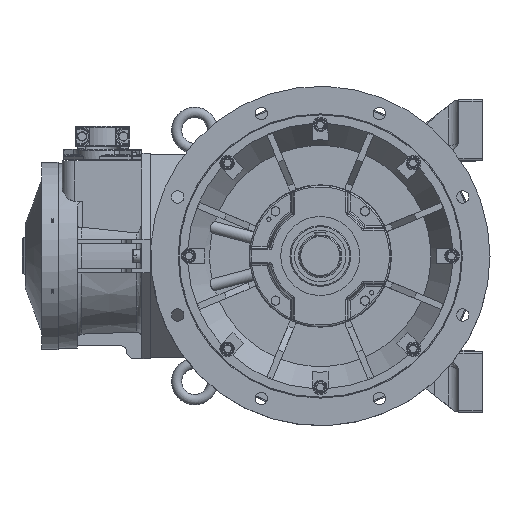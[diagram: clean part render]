
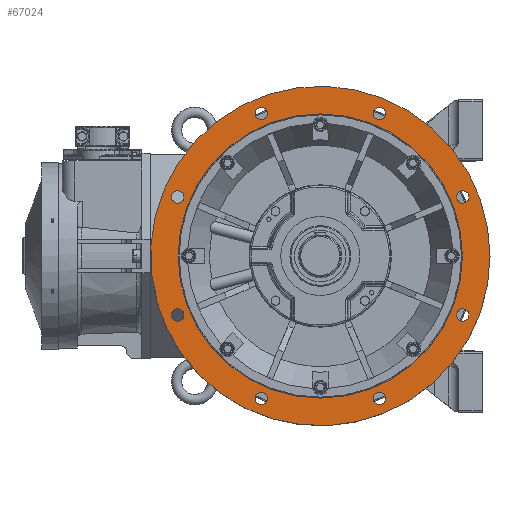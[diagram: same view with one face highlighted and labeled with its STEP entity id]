
A CAD part, left-side view. The second image highlights one B-rep face of the part: STEP entity #67024.
In plain terms, the highlighted planar face has unit normal (-1, 0, 0).
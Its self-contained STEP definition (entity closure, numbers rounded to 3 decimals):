
#18925=ORIENTED_EDGE('',*,*,#28013,.F.);
#18926=ORIENTED_EDGE('',*,*,#28015,.F.);
#18927=ORIENTED_EDGE('',*,*,#28017,.F.);
#18928=ORIENTED_EDGE('',*,*,#28019,.F.);
#18929=ORIENTED_EDGE('',*,*,#28021,.F.);
#18930=ORIENTED_EDGE('',*,*,#28023,.F.);
#18931=ORIENTED_EDGE('',*,*,#28025,.F.);
#18932=ORIENTED_EDGE('',*,*,#28027,.F.);
#18933=ORIENTED_EDGE('',*,*,#28047,.F.);
#18934=ORIENTED_EDGE('',*,*,#28048,.T.);
#28013=EDGE_CURVE('',#33291,#33291,#35902,.T.);
#28015=EDGE_CURVE('',#33293,#33293,#35904,.T.);
#28017=EDGE_CURVE('',#33295,#33295,#35906,.T.);
#28019=EDGE_CURVE('',#33297,#33297,#35908,.T.);
#28021=EDGE_CURVE('',#33299,#33299,#35910,.T.);
#28023=EDGE_CURVE('',#33301,#33301,#35912,.T.);
#28025=EDGE_CURVE('',#33303,#33303,#35914,.T.);
#28027=EDGE_CURVE('',#33305,#33305,#35916,.T.);
#28047=EDGE_CURVE('',#33325,#33325,#35936,.T.);
#28048=EDGE_CURVE('',#33326,#33326,#35937,.F.);
#33291=VERTEX_POINT('',#101194);
#33293=VERTEX_POINT('',#101199);
#33295=VERTEX_POINT('',#101204);
#33297=VERTEX_POINT('',#101209);
#33299=VERTEX_POINT('',#101214);
#33301=VERTEX_POINT('',#101219);
#33303=VERTEX_POINT('',#101224);
#33305=VERTEX_POINT('',#101229);
#33325=VERTEX_POINT('',#101287);
#33326=VERTEX_POINT('',#101289);
#35902=CIRCLE('',#71323,12.);
#35904=CIRCLE('',#71326,12.);
#35906=CIRCLE('',#71329,12.);
#35908=CIRCLE('',#71332,12.);
#35910=CIRCLE('',#71335,12.);
#35912=CIRCLE('',#71338,12.);
#35914=CIRCLE('',#71341,12.);
#35916=CIRCLE('',#71344,12.);
#35936=CIRCLE('',#71382,276.402);
#35937=CIRCLE('',#71383,330.);
#38910=EDGE_LOOP('',(#18925));
#38911=EDGE_LOOP('',(#18926));
#38912=EDGE_LOOP('',(#18927));
#38913=EDGE_LOOP('',(#18928));
#38914=EDGE_LOOP('',(#18929));
#38915=EDGE_LOOP('',(#18930));
#38916=EDGE_LOOP('',(#18931));
#38917=EDGE_LOOP('',(#18932));
#38918=EDGE_LOOP('',(#18933));
#38919=EDGE_LOOP('',(#18934));
#42343=FACE_BOUND('',#38910,.T.);
#42344=FACE_BOUND('',#38911,.T.);
#42345=FACE_BOUND('',#38912,.T.);
#42346=FACE_BOUND('',#38913,.T.);
#42347=FACE_BOUND('',#38914,.T.);
#42348=FACE_BOUND('',#38915,.T.);
#42349=FACE_BOUND('',#38916,.T.);
#42350=FACE_BOUND('',#38917,.T.);
#42351=FACE_BOUND('',#38918,.T.);
#42352=FACE_BOUND('',#38919,.T.);
#44721=PLANE('',#71381);
#67024=ADVANCED_FACE('',(#42343,#42344,#42345,#42346,#42347,#42348,#42349,
#42350,#42351,#42352),#44721,.F.);
#71323=AXIS2_PLACEMENT_3D('',#101193,#82400,#82401);
#71326=AXIS2_PLACEMENT_3D('',#101198,#82406,#82407);
#71329=AXIS2_PLACEMENT_3D('',#101203,#82412,#82413);
#71332=AXIS2_PLACEMENT_3D('',#101208,#82418,#82419);
#71335=AXIS2_PLACEMENT_3D('',#101213,#82424,#82425);
#71338=AXIS2_PLACEMENT_3D('',#101218,#82430,#82431);
#71341=AXIS2_PLACEMENT_3D('',#101223,#82436,#82437);
#71344=AXIS2_PLACEMENT_3D('',#101228,#82442,#82443);
#71381=AXIS2_PLACEMENT_3D('',#101285,#82516,#82517);
#71382=AXIS2_PLACEMENT_3D('',#101286,#82518,#82519);
#71383=AXIS2_PLACEMENT_3D('',#101288,#82520,#82521);
#82400=DIRECTION('',(-1.,0.,0.));
#82401=DIRECTION('',(0.,0.,1.));
#82406=DIRECTION('',(-1.,0.,0.));
#82407=DIRECTION('',(0.,0.,1.));
#82412=DIRECTION('',(-1.,0.,0.));
#82413=DIRECTION('',(0.,0.,1.));
#82418=DIRECTION('',(-1.,0.,0.));
#82419=DIRECTION('',(0.,0.,1.));
#82424=DIRECTION('',(-1.,0.,0.));
#82425=DIRECTION('',(0.,0.,1.));
#82430=DIRECTION('',(-1.,0.,0.));
#82431=DIRECTION('',(0.,0.,1.));
#82436=DIRECTION('',(-1.,0.,0.));
#82437=DIRECTION('',(0.,0.,1.));
#82442=DIRECTION('',(-1.,0.,0.));
#82443=DIRECTION('',(0.,0.,1.));
#82516=DIRECTION('',(1.,0.,0.));
#82517=DIRECTION('',(0.,-1.,0.));
#82518=DIRECTION('',(-1.,0.,0.));
#82519=DIRECTION('',(0.,1.,0.));
#82520=DIRECTION('',(1.,0.,0.));
#82521=DIRECTION('',(0.,-1.,0.));
#101193=CARTESIAN_POINT('',(-89.5,114.805,277.164));
#101194=CARTESIAN_POINT('',(-89.5,114.805,289.164));
#101198=CARTESIAN_POINT('',(-89.5,-114.805,277.164));
#101199=CARTESIAN_POINT('',(-89.5,-114.805,289.164));
#101203=CARTESIAN_POINT('',(-89.5,-277.164,114.805));
#101204=CARTESIAN_POINT('',(-89.5,-277.164,126.805));
#101208=CARTESIAN_POINT('',(-89.5,-277.164,-114.805));
#101209=CARTESIAN_POINT('',(-89.5,-277.164,-102.805));
#101213=CARTESIAN_POINT('',(-89.5,-114.805,-277.164));
#101214=CARTESIAN_POINT('',(-89.5,-114.805,-265.164));
#101218=CARTESIAN_POINT('',(-89.5,114.805,-277.164));
#101219=CARTESIAN_POINT('',(-89.5,114.805,-265.164));
#101223=CARTESIAN_POINT('',(-89.5,277.164,-114.805));
#101224=CARTESIAN_POINT('',(-89.5,277.164,-102.805));
#101228=CARTESIAN_POINT('',(-89.5,277.164,114.805));
#101229=CARTESIAN_POINT('',(-89.5,277.164,126.805));
#101285=CARTESIAN_POINT('',(-89.5,276.402,0.));
#101286=CARTESIAN_POINT('',(-89.5,0.,0.));
#101287=CARTESIAN_POINT('',(-89.5,276.402,0.));
#101288=CARTESIAN_POINT('',(-89.5,0.,0.));
#101289=CARTESIAN_POINT('',(-89.5,-330.,0.));
